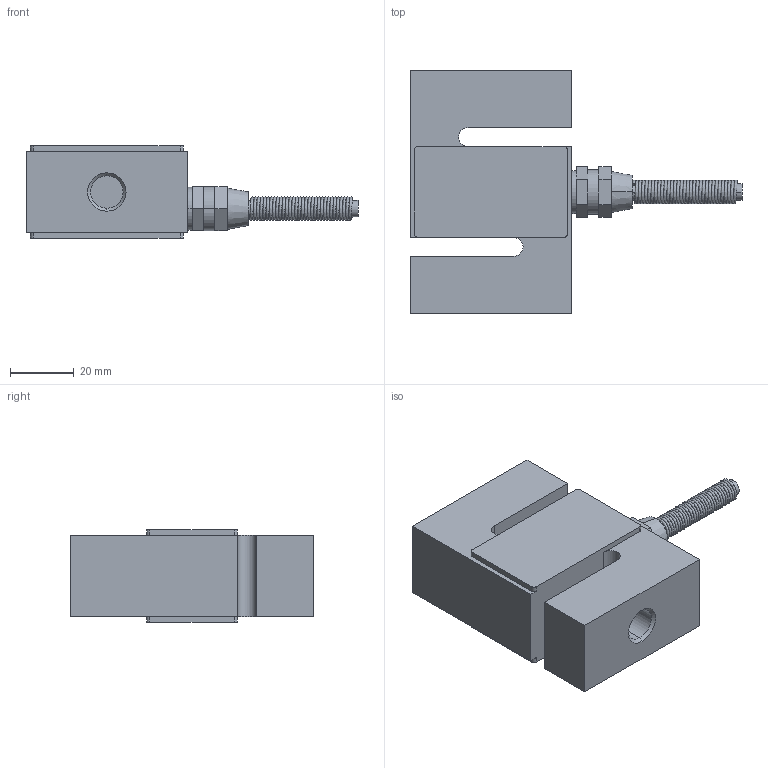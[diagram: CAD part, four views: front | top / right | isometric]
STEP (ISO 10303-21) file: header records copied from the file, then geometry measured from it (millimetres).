
FILE_DESCRIPTION (( 'STEP AP214' ), '1' );
FILE_NAME ('3D_KM1502-5KN.STEP', '2014-01-23T15:48:14', ( '' ), ( '' ), 'SwSTEP 2.0', 'SolidWorks 2012', '' );
FILE_SCHEMA (( 'AUTOMOTIVE_DESIGN' ));
Length unit declared in the file: millimetre
Products named in the file (1): 3D_KM1502-5KN
Bounding box: 104.3 x 76.5 x 29 mm (x, y, z)
Volume: 94096 mm3; surface area: 21523.4 mm2
Topology: 2 solids, 2 shells, 79 faces, 197 edges, 126 vertices
Faces by surface type: plane 50, cylinder 21, cone 6, bspline 2
Entity records: 10665 total; most frequent: CARTESIAN_POINT 8671, DIRECTION 417, ORIENTED_EDGE 394, EDGE_CURVE 197, AXIS2_PLACEMENT_3D 144, VECTOR 129, LINE 129, VERTEX_POINT 126
